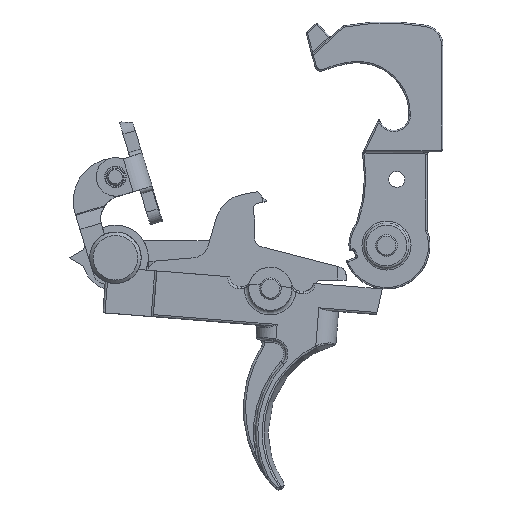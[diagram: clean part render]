
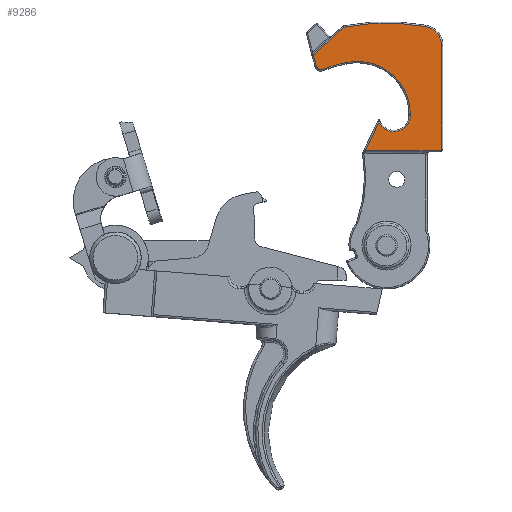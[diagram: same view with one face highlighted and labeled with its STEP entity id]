
A CAD part, top view. The second image highlights one B-rep face of the part: STEP entity #9286.
In plain terms, the highlighted planar face has unit normal (0, 0, 1).
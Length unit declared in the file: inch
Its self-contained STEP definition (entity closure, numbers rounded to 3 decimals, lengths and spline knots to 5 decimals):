
#997=CIRCLE('',#10372,0.01);
#1042=CIRCLE('',#10461,0.031);
#1044=CIRCLE('',#10464,1.36056);
#1046=CIRCLE('',#10467,0.385);
#1048=CIRCLE('',#10471,0.11935);
#1061=CIRCLE('',#10494,0.141);
#1063=CIRCLE('',#10497,1.615);
#1273=PLANE('',#10504);
#1826=FACE_OUTER_BOUND('',#2463,.T.);
#2463=EDGE_LOOP('',(#8405,#8406,#8407,#8408,#8409,#8410,#8411,#8412,#8413,
#8414,#8415,#8416,#8417));
#2971=LINE('',#24671,#3535);
#3013=LINE('',#24945,#3577);
#3069=LINE('',#25827,#3633);
#3073=LINE('',#25856,#3637);
#3075=LINE('',#25861,#3639);
#3076=LINE('',#25863,#3640);
#3535=VECTOR('',#12583,0.3937);
#3577=VECTOR('',#12775,0.3937);
#3633=VECTOR('',#13163,0.3937);
#3637=VECTOR('',#13205,0.3937);
#3639=VECTOR('',#13211,0.3937);
#3640=VECTOR('',#13214,0.3937);
#4302=VERTEX_POINT('',#24584);
#4316=VERTEX_POINT('',#24669);
#4376=VERTEX_POINT('',#24931);
#4379=VERTEX_POINT('',#24943);
#4432=VERTEX_POINT('',#25452);
#4464=VERTEX_POINT('',#25747);
#4466=VERTEX_POINT('',#25813);
#4467=VERTEX_POINT('',#25817);
#4468=VERTEX_POINT('',#25821);
#4469=VERTEX_POINT('',#25825);
#4474=VERTEX_POINT('',#25847);
#4476=VERTEX_POINT('',#25859);
#4478=VERTEX_POINT('',#25867);
#5522=EDGE_CURVE('',#4316,#4302,#2971,.T.);
#5616=EDGE_CURVE('',#4379,#4376,#3013,.T.);
#5692=EDGE_CURVE('',#4432,#4316,#997,.T.);
#5770=EDGE_CURVE('',#4466,#4379,#1042,.T.);
#5772=EDGE_CURVE('',#4467,#4466,#1044,.T.);
#5774=EDGE_CURVE('',#4468,#4467,#1046,.T.);
#5776=EDGE_CURVE('',#4469,#4468,#3069,.T.);
#5777=EDGE_CURVE('',#4464,#4469,#1048,.T.);
#5791=EDGE_CURVE('',#4376,#4474,#3073,.T.);
#5794=EDGE_CURVE('',#4476,#4432,#3075,.T.);
#5795=EDGE_CURVE('',#4302,#4464,#3076,.T.);
#5798=EDGE_CURVE('',#4478,#4476,#1061,.T.);
#5800=EDGE_CURVE('',#4474,#4478,#1063,.T.);
#8405=ORIENTED_EDGE('',*,*,#5791,.F.);
#8406=ORIENTED_EDGE('',*,*,#5616,.F.);
#8407=ORIENTED_EDGE('',*,*,#5770,.F.);
#8408=ORIENTED_EDGE('',*,*,#5772,.F.);
#8409=ORIENTED_EDGE('',*,*,#5774,.F.);
#8410=ORIENTED_EDGE('',*,*,#5776,.F.);
#8411=ORIENTED_EDGE('',*,*,#5777,.F.);
#8412=ORIENTED_EDGE('',*,*,#5795,.F.);
#8413=ORIENTED_EDGE('',*,*,#5522,.F.);
#8414=ORIENTED_EDGE('',*,*,#5692,.F.);
#8415=ORIENTED_EDGE('',*,*,#5794,.F.);
#8416=ORIENTED_EDGE('',*,*,#5798,.F.);
#8417=ORIENTED_EDGE('',*,*,#5800,.F.);
#9286=ADVANCED_FACE('',(#1826),#1273,.T.);
#10372=AXIS2_PLACEMENT_3D('',#25454,#12941,#12942);
#10461=AXIS2_PLACEMENT_3D('',#25815,#13145,#13146);
#10464=AXIS2_PLACEMENT_3D('',#25819,#13151,#13152);
#10467=AXIS2_PLACEMENT_3D('',#25823,#13157,#13158);
#10471=AXIS2_PLACEMENT_3D('',#25829,#13166,#13167);
#10494=AXIS2_PLACEMENT_3D('',#25869,#13220,#13221);
#10497=AXIS2_PLACEMENT_3D('',#25872,#13226,#13227);
#10504=AXIS2_PLACEMENT_3D('',#25881,#13242,#13243);
#12583=DIRECTION('',(-0.358,-0.934,0.));
#12775=DIRECTION('',(-0.995,0.105,0.));
#12941=DIRECTION('center_axis',(0.,0.,-1.));
#12942=DIRECTION('ref_axis',(0.914,0.407,0.));
#13145=DIRECTION('center_axis',(0.,0.,-1.));
#13146=DIRECTION('ref_axis',(0.663,-0.748,0.));
#13151=DIRECTION('center_axis',(0.,0.,1.));
#13152=DIRECTION('ref_axis',(-0.997,0.081,0.));
#13157=DIRECTION('center_axis',(0.,0.,1.));
#13158=DIRECTION('ref_axis',(-0.504,0.863,0.));
#13163=DIRECTION('',(-0.934,0.358,0.));
#13166=DIRECTION('center_axis',(0.,0.,1.));
#13167=DIRECTION('ref_axis',(0.979,-0.204,0.));
#13205=DIRECTION('',(-0.371,0.929,0.));
#13211=DIRECTION('',(0.934,-0.358,0.));
#13214=DIRECTION('',(-0.688,0.725,0.));
#13220=DIRECTION('center_axis',(0.,0.,-1.));
#13221=DIRECTION('ref_axis',(-0.325,0.946,0.));
#13226=DIRECTION('center_axis',(0.,0.,-1.));
#13227=DIRECTION('ref_axis',(-0.937,0.349,0.));
#13242=DIRECTION('center_axis',(0.,0.,1.));
#13243=DIRECTION('ref_axis',(1.,0.,0.));
#24584=CARTESIAN_POINT('',(-0.69934,0.10356,0.3));
#24669=CARTESIAN_POINT('',(-0.50441,0.61137,0.3));
#24671=CARTESIAN_POINT('',(-0.58907,0.39082,0.3));
#24931=CARTESIAN_POINT('',(-1.48028,-0.00027,0.3));
#24943=CARTESIAN_POINT('',(-1.39463,-0.00927,0.3));
#24945=CARTESIAN_POINT('',(-1.22169,-0.02745,0.3));
#25452=CARTESIAN_POINT('',(-0.51016,0.62429,0.3));
#25454=CARTESIAN_POINT('Origin',(-0.51374,0.61495,0.3));
#25747=CARTESIAN_POINT('',(-0.85704,0.26974,0.3));
#25813=CARTESIAN_POINT('',(-1.3604,0.02108,0.3));
#25815=CARTESIAN_POINT('Origin',(-1.39139,0.02156,0.3));
#25817=CARTESIAN_POINT('',(-1.34582,0.19973,0.3));
#25819=CARTESIAN_POINT('Origin',(0.,0.,0.3));
#25821=CARTESIAN_POINT('',(-0.827,0.50276,0.3));
#25823=CARTESIAN_POINT('Origin',(-0.96497,0.14334,0.3));
#25825=CARTESIAN_POINT('',(-0.8207,0.50034,0.3));
#25827=CARTESIAN_POINT('',(-0.76165,0.47768,0.3));
#25829=CARTESIAN_POINT('Origin',(-0.86347,0.38892,0.3));
#25847=CARTESIAN_POINT('',(-1.59102,0.27729,0.3));
#25856=CARTESIAN_POINT('',(-1.53857,0.14584,0.3));
#25859=CARTESIAN_POINT('',(-1.21134,0.89345,0.3));
#25861=CARTESIAN_POINT('',(-0.55322,0.64082,0.3));
#25863=CARTESIAN_POINT('',(-0.84495,0.25699,0.3));
#25867=CARTESIAN_POINT('',(-1.38258,0.83469,0.3));
#25869=CARTESIAN_POINT('Origin',(-1.26187,0.76181,0.3));
#25872=CARTESIAN_POINT('Origin',(0.,0.,0.3));
#25881=CARTESIAN_POINT('Origin',(-0.75349,0.30363,0.3));
